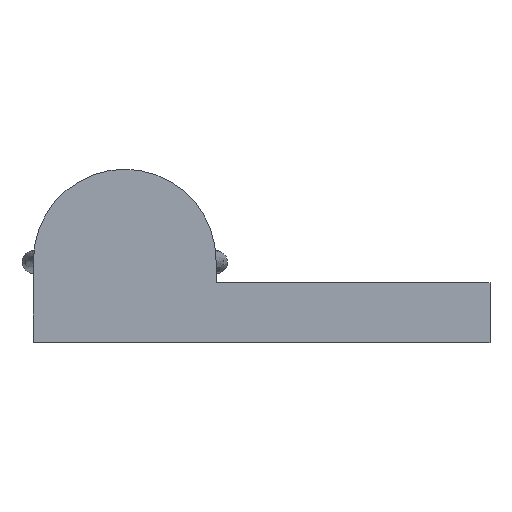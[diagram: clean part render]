
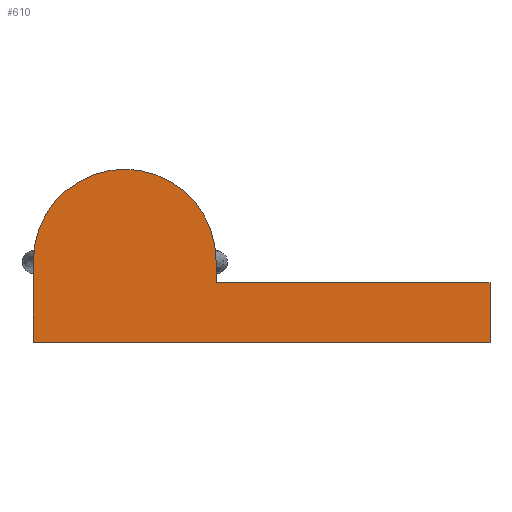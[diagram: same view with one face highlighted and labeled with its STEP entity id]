
A CAD part, top view. The second image highlights one B-rep face of the part: STEP entity #610.
In plain terms, the highlighted planar face has unit normal (0, 0, 1).
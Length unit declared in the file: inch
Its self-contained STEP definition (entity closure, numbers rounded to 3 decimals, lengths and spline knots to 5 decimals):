
#107=PLANE('',#749);
#136=FACE_OUTER_BOUND('',#183,.T.);
#183=EDGE_LOOP('',(#484,#485,#486,#487,#488,#489));
#231=LINE('',#1064,#262);
#234=LINE('',#1072,#265);
#236=LINE('',#1076,#267);
#238=LINE('',#1080,#269);
#240=LINE('',#1083,#271);
#262=VECTOR('',#853,0.3937);
#265=VECTOR('',#862,0.3937);
#267=VECTOR('',#866,0.3937);
#269=VECTOR('',#870,0.3937);
#271=VECTOR('',#874,0.3937);
#290=CIRCLE('',#744,0.1);
#333=VERTEX_POINT('',#1061);
#334=VERTEX_POINT('',#1063);
#335=VERTEX_POINT('',#1067);
#336=VERTEX_POINT('',#1071);
#337=VERTEX_POINT('',#1075);
#338=VERTEX_POINT('',#1079);
#384=EDGE_CURVE('',#334,#333,#231,.T.);
#386=EDGE_CURVE('',#335,#334,#290,.T.);
#388=EDGE_CURVE('',#336,#335,#234,.T.);
#390=EDGE_CURVE('',#337,#336,#236,.T.);
#392=EDGE_CURVE('',#338,#337,#238,.T.);
#394=EDGE_CURVE('',#333,#338,#240,.T.);
#484=ORIENTED_EDGE('',*,*,#394,.T.);
#485=ORIENTED_EDGE('',*,*,#392,.T.);
#486=ORIENTED_EDGE('',*,*,#390,.T.);
#487=ORIENTED_EDGE('',*,*,#388,.T.);
#488=ORIENTED_EDGE('',*,*,#386,.T.);
#489=ORIENTED_EDGE('',*,*,#384,.T.);
#610=ADVANCED_FACE('',(#136),#107,.T.);
#744=AXIS2_PLACEMENT_3D('',#1068,#857,#858);
#749=AXIS2_PLACEMENT_3D('',#1084,#875,#876);
#853=DIRECTION('',(0.,-1.,0.));
#857=DIRECTION('center_axis',(0.,0.,1.));
#858=DIRECTION('ref_axis',(1.,0.,0.));
#862=DIRECTION('',(0.,1.,0.));
#866=DIRECTION('',(-1.,0.,0.));
#870=DIRECTION('',(0.,1.,0.));
#874=DIRECTION('',(1.,0.,0.));
#875=DIRECTION('center_axis',(0.,0.,1.));
#876=DIRECTION('ref_axis',(1.,0.,0.));
#1061=CARTESIAN_POINT('',(-0.25,-0.0325,0.165));
#1063=CARTESIAN_POINT('',(-0.25,0.0569,0.165));
#1064=CARTESIAN_POINT('',(-0.25,0.0569,0.165));
#1067=CARTESIAN_POINT('',(-0.05,0.0569,0.165));
#1068=CARTESIAN_POINT('Origin',(-0.15,0.0569,0.165));
#1071=CARTESIAN_POINT('',(-0.05,0.0325,0.165));
#1072=CARTESIAN_POINT('',(-0.05,0.0325,0.165));
#1075=CARTESIAN_POINT('',(0.25,0.0325,0.165));
#1076=CARTESIAN_POINT('',(0.25,0.0325,0.165));
#1079=CARTESIAN_POINT('',(0.25,-0.0325,0.165));
#1080=CARTESIAN_POINT('',(0.25,-0.0325,0.165));
#1083=CARTESIAN_POINT('',(-0.25,-0.0325,0.165));
#1084=CARTESIAN_POINT('Origin',(0.,0.0622,
0.165));
